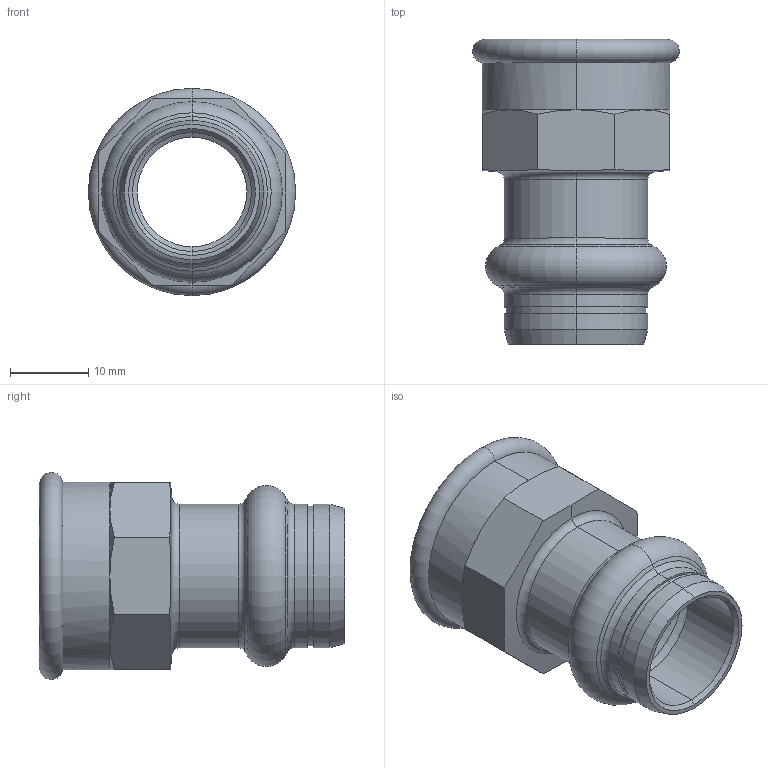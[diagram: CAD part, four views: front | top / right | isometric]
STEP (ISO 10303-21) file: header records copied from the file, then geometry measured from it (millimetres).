
FILE_DESCRIPTION (( 'STEP AP203' ), '1' );
FILE_NAME ('SP4270G Ø15 1-2.STEP', '2017-04-26T08:01:11', ( '' ), ( '' ), 'SwSTEP 2.0', 'SolidWorks 2016', '' );
FILE_SCHEMA (( 'CONFIG_CONTROL_DESIGN' ));
Length unit declared in the file: millimetre
Products named in the file (1): SP4270G Ø15 1-2
Bounding box: 26.5 x 39 x 26.5 mm (x, y, z)
Volume: 5692.3 mm3; surface area: 5628.5 mm2
Topology: 1 solids, 1 shells, 68 faces, 144 edges, 82 vertices
Faces by surface type: cone 24, cylinder 18, plane 14, torus 12
Entity records: 1955 total; most frequent: CARTESIAN_POINT 413, DIRECTION 332, ORIENTED_EDGE 288, AXIS2_PLACEMENT_3D 145, EDGE_CURVE 144, VERTEX_POINT 82, CIRCLE 76, EDGE_LOOP 74
